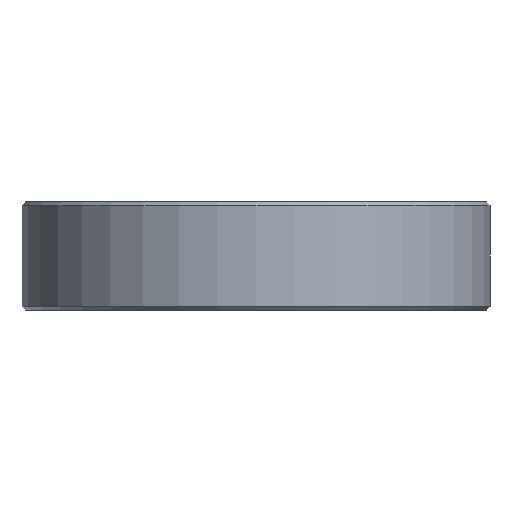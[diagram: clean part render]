
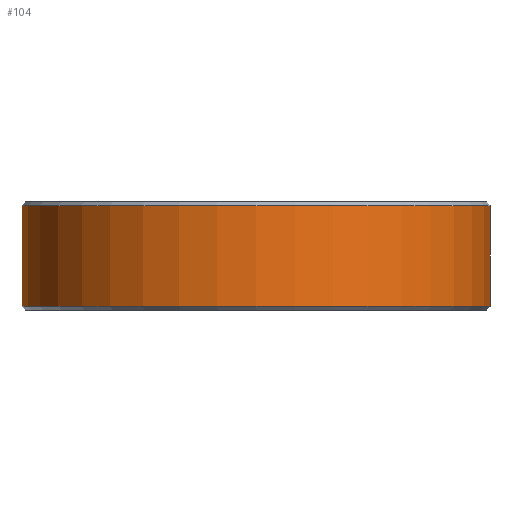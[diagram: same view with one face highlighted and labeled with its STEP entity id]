
A CAD part, front view. The second image highlights one B-rep face of the part: STEP entity #104.
In plain terms, the highlighted cylindrical face has radius 32.5 mm (diameter 65 mm), a partial arc.
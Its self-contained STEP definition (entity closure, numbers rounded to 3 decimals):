
#104 = ADVANCED_FACE( '', ( #203 ), #204, .T. );
#203 = FACE_OUTER_BOUND( '', #335, .T. );
#204 = CYLINDRICAL_SURFACE( '', #336, 32.5 );
#335 = EDGE_LOOP( '', ( #601, #602, #603, #604 ) );
#336 = AXIS2_PLACEMENT_3D( '', #605, #606, #607 );
#601 = ORIENTED_EDGE( '', *, *, #834, .T. );
#602 = ORIENTED_EDGE( '', *, *, #765, .T. );
#603 = ORIENTED_EDGE( '', *, *, #835, .F. );
#604 = ORIENTED_EDGE( '', *, *, #826, .T. );
#605 = CARTESIAN_POINT( '', ( 0., 0., 7.5 ) );
#606 = DIRECTION( '', ( 0., 0., -1. ) );
#607 = DIRECTION( '', ( 1., 0., 0. ) );
#765 = EDGE_CURVE( '', #877, #875, #878, .T. );
#826 = EDGE_CURVE( '', #986, #984, #987, .F. );
#834 = EDGE_CURVE( '', #984, #877, #999, .T. );
#835 = EDGE_CURVE( '', #986, #875, #1000, .T. );
#875 = VERTEX_POINT( '', #1064 );
#877 = VERTEX_POINT( '', #1069 );
#878 = LINE( '', #1070, #1071 );
#984 = VERTEX_POINT( '', #1400 );
#986 = VERTEX_POINT( '', #1405 );
#987 = LINE( '', #1406, #1407 );
#999 = CIRCLE( '', #1433, 32.5 );
#1000 = CIRCLE( '', #1434, 32.5 );
#1064 = CARTESIAN_POINT( '', ( 32.438, -2., 7. ) );
#1069 = CARTESIAN_POINT( '', ( 32.438, -2., -7. ) );
#1070 = CARTESIAN_POINT( '', ( 32.438, -2., 7.5 ) );
#1071 = VECTOR( '', #1509, 1000. );
#1400 = CARTESIAN_POINT( '', ( -32.438, -2., -7. ) );
#1405 = CARTESIAN_POINT( '', ( -32.438, -2., 7. ) );
#1406 = CARTESIAN_POINT( '', ( -32.438, -2., 7.5 ) );
#1407 = VECTOR( '', #1602, 1000. );
#1433 = AXIS2_PLACEMENT_3D( '', #1608, #1609, #1610 );
#1434 = AXIS2_PLACEMENT_3D( '', #1611, #1612, #1613 );
#1509 = DIRECTION( '', ( 0., 0., 1. ) );
#1602 = DIRECTION( '', ( 0., 0., 1. ) );
#1608 = CARTESIAN_POINT( '', ( 0., 0., -7. ) );
#1609 = DIRECTION( '', ( 0., 0., 1. ) );
#1610 = DIRECTION( '', ( 1., 0., 0. ) );
#1611 = CARTESIAN_POINT( '', ( 0., 0., 7. ) );
#1612 = DIRECTION( '', ( 0., 0., 1. ) );
#1613 = DIRECTION( '', ( 1., 0., 0. ) );
